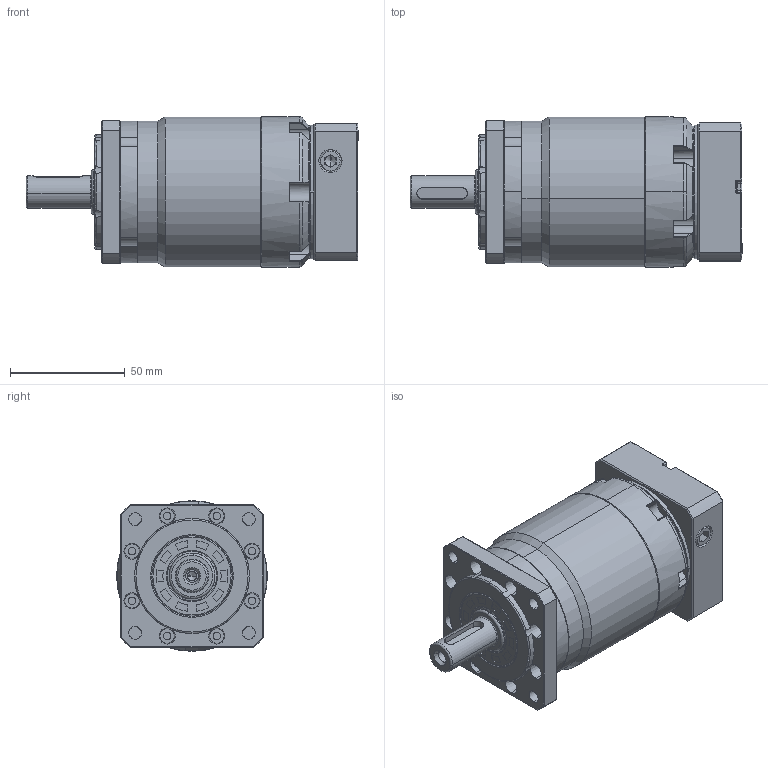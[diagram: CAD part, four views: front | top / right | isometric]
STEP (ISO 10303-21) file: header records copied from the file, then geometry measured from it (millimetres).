
FILE_DESCRIPTION (( 'STEP AP214' ), '1' );
FILE_NAME ('FB060-L2-S2-P2 14-50-70-M4.STEP', '2021-04-23T06:52:40', ( 'Microsoft' ), ( 'Microsoft China' ), 'SwSTEP 2.0', 'SolidWorks 2016', '' );
FILE_SCHEMA (( 'AUTOMOTIVE_DESIGN' ));
Length unit declared in the file: millimetre
Products named in the file (10): 蚐猾20355; FB060-L2-S2-P2 14-50-70-M4; hex socket set screws with cone point gb_GB_FASTENER_SCREWS_HSCP M10X8-N; FB060D怀堤俴陎殤-14粣; 输入太阳齿轮060D-14; FB060齿圈; 8-怀堤傷褲极FB060; 11-输入法兰FB060D-50-70-M4.; 3-输入端壳体FB064D; 坶踡遠18-37-12(1)
Assembly tree (9 placements, depth 2):
  FB060-L2-S2-P2 14-50-70-M4
    蚐猾20355
    坶踡遠18-37-12(1)
    3-输入端壳体FB064D
    11-输入法兰FB060D-50-70-M4.
    8-怀堤傷褲极FB060
    FB060齿圈
    输入太阳齿轮060D-14
    FB060D怀堤俴陎殤-14粣
    hex socket set screws with cone point gb_GB_FASTENER_SCREWS_HSCP M10X8-N
Bounding box: 144.5 x 65.5 x 65.5 mm (x, y, z)
Volume: 343696.9 mm3; surface area: 76868.7 mm2
Topology: 10 solids, 11 shells, 1317 faces, 3368 edges, 2106 vertices
Faces by surface type: plane 457, bspline 344, cylinder 309, cone 185, torus 22
Entity records: 65033 total; most frequent: CARTESIAN_POINT 20182, ORIENTED_EDGE 6668, DIRECTION 5602, EDGE_CURVE 3334, VERTEX_POINT 2106, AXIS2_PLACEMENT_3D 2016, LINE 1570, VECTOR 1570
